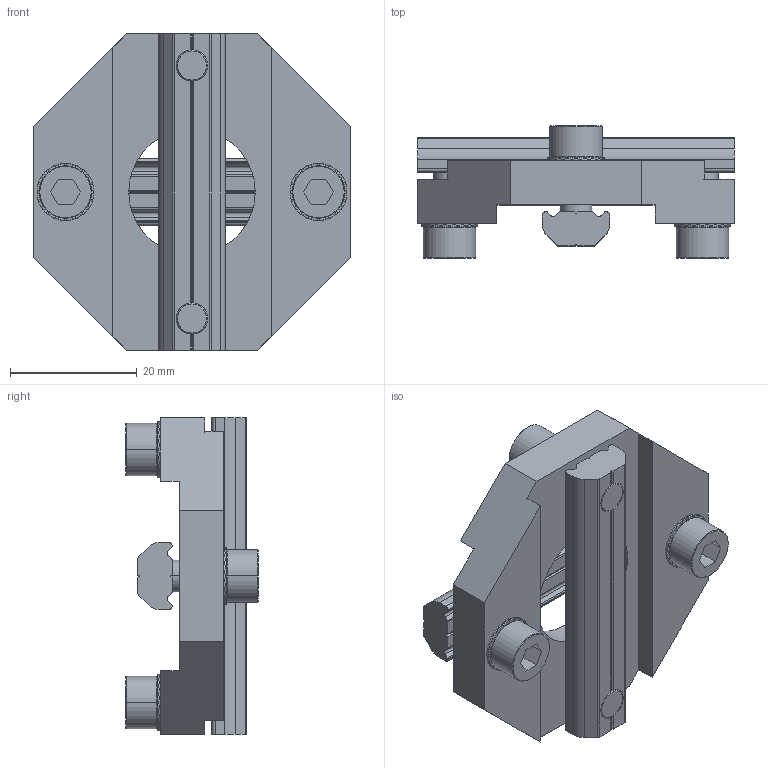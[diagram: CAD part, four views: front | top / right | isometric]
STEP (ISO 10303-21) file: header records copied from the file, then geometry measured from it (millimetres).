
FILE_DESCRIPTION (( 'STEP AP214' ), '1' );
FILE_NAME ('SMBA-3025.STEP', '2019-10-31T03:12:22', ( '微软用户' ), ( '微软中国' ), 'SwSTEP 2.0', 'SolidWorks 2016', '' );
FILE_SCHEMA (( 'AUTOMOTIVE_DESIGN' ));
Length unit declared in the file: millimetre
Products named in the file (5): PTS-M5; PTN-M5P40; PTC-M5L14; SMBA-3025
Assembly tree (11 placements, depth 2):
  SMBA-3025
    SMBA-3025
    PTC-M5L14  x4
    PTN-M5P40  x2
    PTS-M5  x4
Bounding box: 50 x 20.9 x 50 mm (x, y, z)
Volume: 17190.6 mm3; surface area: 11751.6 mm2
Topology: 11 solids, 11 shells, 864 faces, 2526 edges, 1676 vertices
Faces by surface type: plane 754, cylinder 86, cone 24
Entity records: 9140 total; most frequent: CARTESIAN_POINT 1746, ORIENTED_EDGE 1536, DIRECTION 1526, EDGE_CURVE 768, AXIS2_PLACEMENT_3D 514, VERTEX_POINT 510, VECTOR 498, LINE 498
